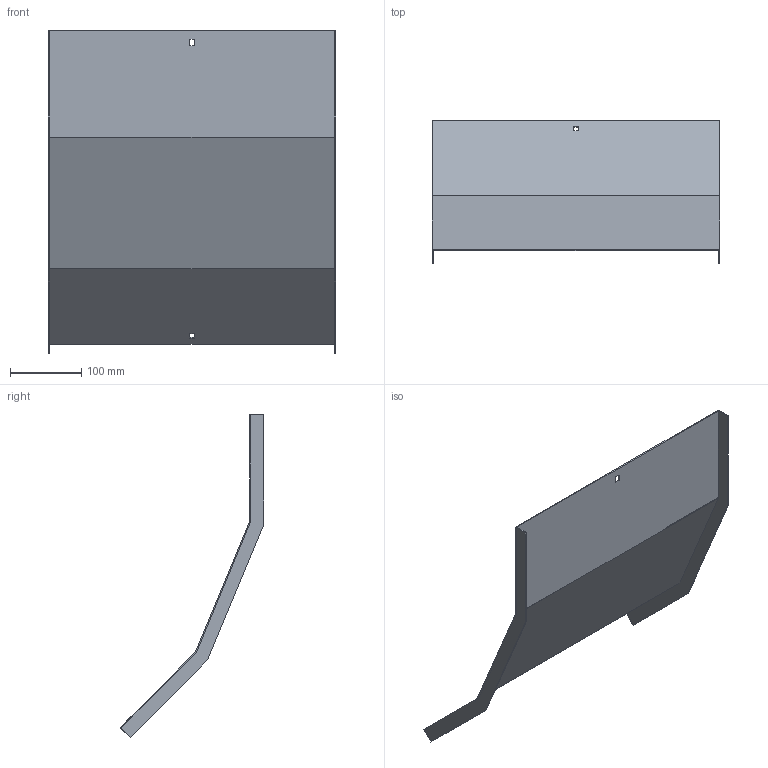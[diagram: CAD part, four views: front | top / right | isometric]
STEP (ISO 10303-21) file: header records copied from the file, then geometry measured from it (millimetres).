
FILE_DESCRIPTION (( 'STEP AP214' ), '1' );
FILE_NAME ('B2X31N5R400X.step', '2025-03-20T09:42:46', ( '' ), ( '' ), 'SwSTEP 2.0', 'SolidWorks 2023', '' );
FILE_SCHEMA (( 'AUTOMOTIVE_DESIGN' ));
Length unit declared in the file: millimetre
Products named in the file (1): B2X31N5R400X
Bounding box: 403 x 201.89 x 453.26 mm (x, y, z)
Volume: 329405.9 mm3; surface area: 442161.2 mm2
Topology: 1 solids, 1 shells, 26 faces, 72 edges, 48 vertices
Faces by surface type: plane 26
Entity records: 847 total; most frequent: CARTESIAN_POINT 147, ORIENTED_EDGE 144, DIRECTION 126, EDGE_CURVE 72, VECTOR 72, LINE 72, VERTEX_POINT 48, EDGE_LOOP 30
